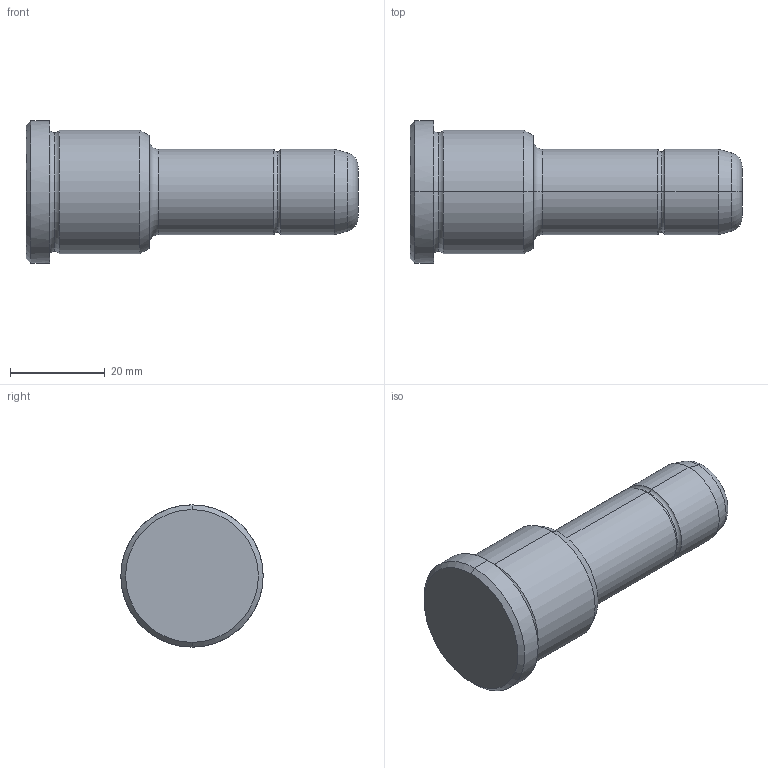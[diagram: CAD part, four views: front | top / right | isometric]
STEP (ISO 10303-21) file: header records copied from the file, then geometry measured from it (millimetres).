
FILE_DESCRIPTION(('CATIA V5 STEP Exchange'),'2;1');
FILE_NAME('C:\Users\Utente\Desktop\IO LAVORO\3D X SITO CF\X SITO\PLASTICA\351\351-18X26X70.stp','2021-08-19T12:49:16+00:00',('none'),('none'),'CATIA Version 5 Release 20 GA (IN-10)','CATIA V5 STEP AP203','none');
FILE_SCHEMA(('CONFIG_CONTROL_DESIGN'));
Length unit declared in the file: millimetre
Products named in the file (1): 351-18X26X70
Bounding box: 70 x 30 x 30 mm (x, y, z)
Volume: 25479.7 mm3; surface area: 5837 mm2
Topology: 1 solids, 1 shells, 30 faces, 86 edges, 60 vertices
Faces by surface type: torus 12, cylinder 8, cone 6, plane 4
Entity records: 1112 total; most frequent: CARTESIAN_POINT 289, ORIENTED_EDGE 172, DIRECTION 138, AXIS2_PLACEMENT_3D 95, EDGE_CURVE 86, CIRCLE 64, VERTEX_POINT 60, EDGE_LOOP 32
